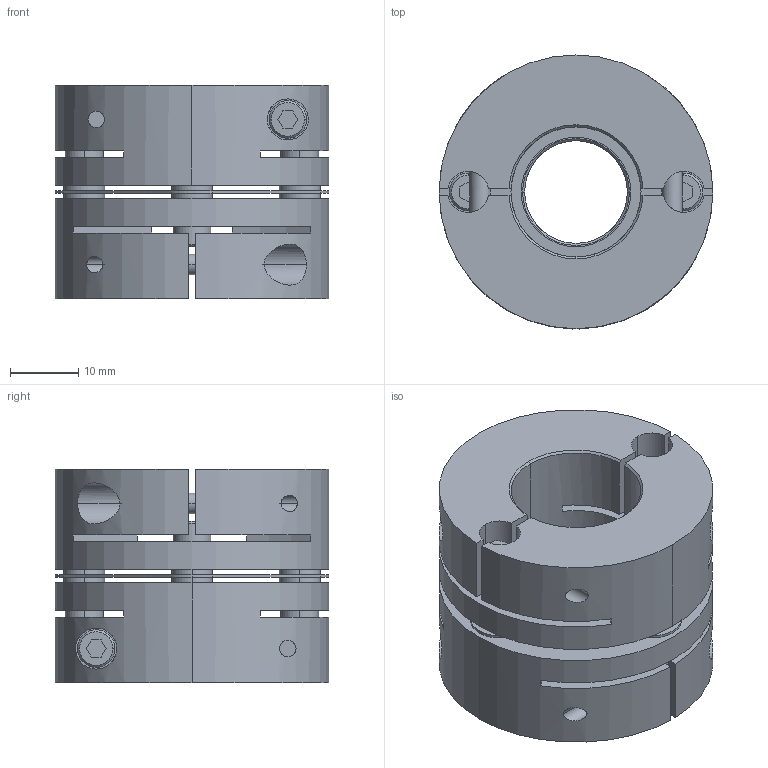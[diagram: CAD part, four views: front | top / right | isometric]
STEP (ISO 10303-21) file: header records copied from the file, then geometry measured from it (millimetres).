
FILE_DESCRIPTION((''),'2;1');
FILE_NAME('LAS-40C-15×19.stp','2011-08-11T09:07:21',(''),(''),'AutoCAD STEP 2000i','AutoCAD 2000i',', , ');
FILE_SCHEMA(('CONFIG_CONTROL_DESIGN'));
Length unit declared in the file: millimetre
Products named in the file (7): LAS-40C-15×15; 忣兜1; LA-4002-D15-1; LA-4002-D15; LA-4002-D10-1; LA-4002-D10; LAS40-ITA
Assembly tree (6 placements, depth 2):
  LAS-40C-15×15
    忣兜1
    LA-4002-D15-1
    LA-4002-D15
    LA-4002-D10-1
    LA-4002-D10
    LAS40-ITA
Bounding box: 40 x 40 x 31.2 mm (x, y, z)
Volume: 27585.7 mm3; surface area: 14919.5 mm2
Topology: 1 solids, 1 shells, 236 faces, 624 edges, 408 vertices
Faces by surface type: plane 112, cylinder 96, cone 28
Entity records: 8247 total; most frequent: CARTESIAN_POINT 2027, DIRECTION 1306, ORIENTED_EDGE 1248, EDGE_CURVE 624, AXIS2_PLACEMENT_3D 479, VERTEX_POINT 408, VECTOR 348, LINE 348
